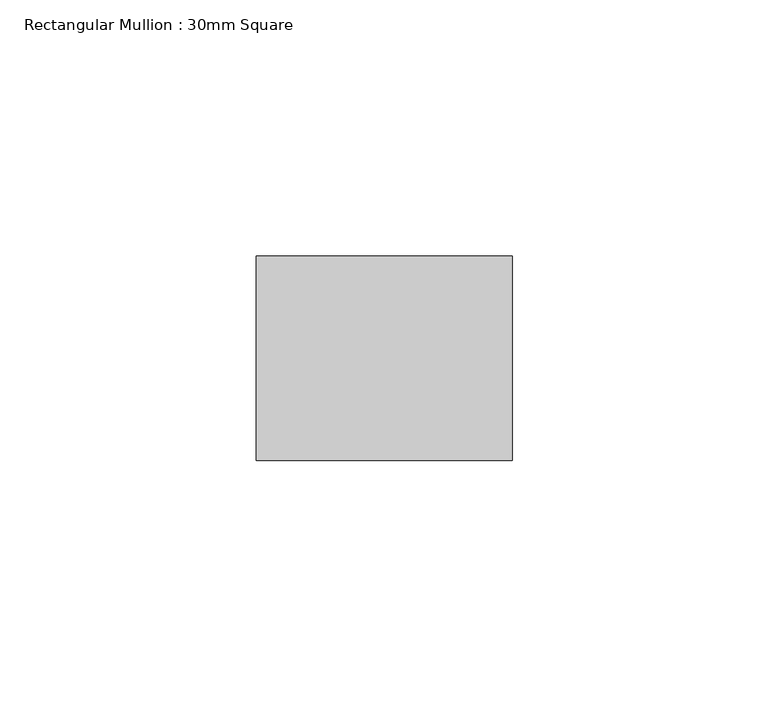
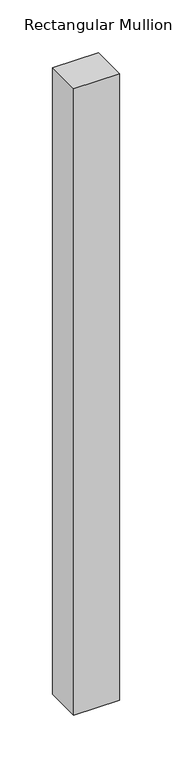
"""IFC4 building model written with IfcOpenShell, lengths in millimetres: member geometry, Rectangular Mullion : 30mm Square."""

from ifc_helpers import new_model, si_unit, frame, origin, place, context, project, spatial, polyline, outline, extrude, source, transform, mapped, element, save


def rectangular_mullion_30mm_square_a630d028(model_context):
    return source(origin(), model_context, "Body", "SweptSolid", [
        extrude(outline(polyline([(25.0, 20.0), (25.0, -20.0), (-25.0, -20.0), (-25.0, 20.0), (25.0, 20.0)])), frame((0.0, 0.0, -723.75), z_axis=(0.0, 0.0, 1.0), x_axis=(1.0, 0.0, 0.0)), (0.0, 0.0, 1.0), 723.75),
    ])


if __name__ == "__main__":
    model = new_model("IFC4")
    model_context = context("Model", 3, world=origin())
    ifc_project = project(units=[si_unit("LENGTHUNIT", "METRE", prefix="MILLI")], contexts=[model_context])
    site = spatial("IfcSite", under=ifc_project)
    building = spatial("IfcBuilding", under=site)
    placement = place(None, origin())
    rectangular_mullion_30mm_square_shape = rectangular_mullion_30mm_square_a630d028(model_context)
    element("IfcMember", 1, ObjectType="Rectangular Mullion : 30mm Square", at=placement, inside=building, context=model_context, shape_type="MappedRepresentation", body=[
        mapped(rectangular_mullion_30mm_square_shape, transform((0.0, 0.0, 0.0), x_axis=(1.0, 0.0, 0.0), y_axis=(0.0, 1.0, 0.0), z_axis=(0.0, 0.0, 1.0))),
    ])
    save(model, "model.ifc")
